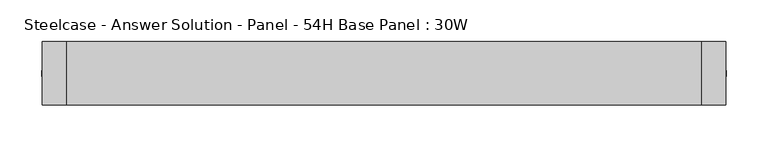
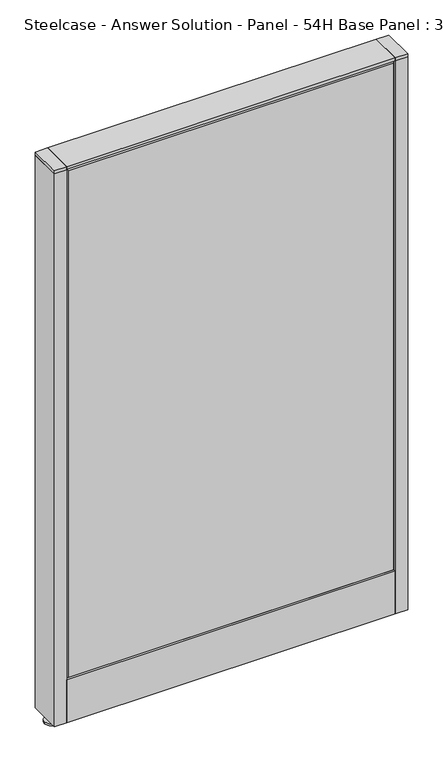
"""IFC4 building model written with IfcOpenShell, lengths in millimetres: furniture geometry, Steelcase - Answer Solution - Panel - 54H Base Panel : 30W."""

import ifcopenshell
import ifcopenshell.guid

model = None  # the IFC model being written
_history = None  # IfcOwnerHistory: only IFC2X3 demands one
_inside = {}  # id of a spatial element -> (the spatial element, [elements in it])
_under = {}  # id of a project, library or spatial element -> (it, [spatial elements below it])
_declared = {}  # id of a project -> (the project, [libraries it declares])
_typed = {}  # id of a type object -> (the type object, [elements of that type])
_made_of = {}  # id of a material, layer set ... -> (it, [elements and type objects made of it])


def new_model(schema):
    """Start an empty IFC model of exactly this schema.

    Asked for "IFC4X3", IfcOpenShell would pick the latest addendum, in which some entities
    have other attributes; the version numbers below select the first issue.
    IFC2X3 requires an IfcOwnerHistory on every rooted entity: one is made here for all.
    """
    global model, _history
    if schema == "IFC4X3":
        model = ifcopenshell.file(schema_version=(4, 3, 0, 0))
    else:
        model = ifcopenshell.file(schema=schema)
    _inside.clear()
    _under.clear()
    _declared.clear()
    _typed.clear()
    _made_of.clear()
    _history = None
    if model.schema == "IFC2X3":
        org = make("IfcOrganization", Name="unknown")
        user = make(
            "IfcPersonAndOrganization",
            ThePerson=make("IfcPerson", FamilyName="unknown"),
            TheOrganization=org,
        )
        app = make(
            "IfcApplication",
            ApplicationDeveloper=org,
            Version="unknown",
            ApplicationFullName="unknown",
            ApplicationIdentifier="unknown",
        )
        _history = make(
            "IfcOwnerHistory",
            OwningUser=user,
            OwningApplication=app,
            ChangeAction="ADDED",
            CreationDate=0,
        )
    return model


def make(cls, **values):
    """One entity of the class cls with the attributes given. An attribute that is None is left unset."""
    return model.create_entity(
        cls, **{name: value for name, value in values.items() if value is not None}
    )


def rooted(cls, **values):
    """An entity with a GlobalId (a new one), such as an element, a storey or a relation."""
    return make(cls, GlobalId=ifcopenshell.guid.new(), OwnerHistory=_history, **values)


def si_unit(unit_type, name, prefix=None):
    """IfcSIUnit, for example si_unit("LENGTHUNIT", "METRE", prefix="MILLI")."""
    return make("IfcSIUnit", UnitType=unit_type, Prefix=prefix, Name=name)


def assignment(units):
    """IfcUnitAssignment: the units of a project."""
    return None if units is None else make("IfcUnitAssignment", Units=units)


def point(xyz):
    """IfcCartesianPoint."""
    return None if xyz is None else make("IfcCartesianPoint", Coordinates=xyz)


def direction(xyz):
    """IfcDirection."""
    return None if xyz is None else make("IfcDirection", DirectionRatios=xyz)


def frame(location, z_axis=None, x_axis=None):
    """IfcAxis2Placement3D, a coordinate frame: its origin and axes. An axis left out is left unset."""
    return make(
        "IfcAxis2Placement3D",
        Location=point(location),
        Axis=direction(z_axis),
        RefDirection=direction(x_axis),
    )


def frame_2d(location, x_axis=None):
    """IfcAxis2Placement2D, a coordinate frame in the plane: its origin and x axis."""
    return make(
        "IfcAxis2Placement2D", Location=point(location), RefDirection=direction(x_axis)
    )


def origin():
    """The frame at (0, 0, 0) with its axes left unset."""
    return frame((0.0, 0.0, 0.0))


def place(relative_to, where):
    """IfcLocalPlacement: puts the frame where relative to a parent placement (None: the world)."""
    return make(
        "IfcLocalPlacement", PlacementRelTo=relative_to, RelativePlacement=where
    )


def context(
    kind, dimensions, precision=None, world=None, true_north=None, identifier=None
):
    """IfcGeometricRepresentationContext, for example the 3D "Model" context."""
    return make(
        "IfcGeometricRepresentationContext",
        ContextIdentifier=identifier,
        ContextType=kind,
        CoordinateSpaceDimension=dimensions,
        Precision=precision,
        WorldCoordinateSystem=world,
        TrueNorth=true_north,
    )


def project(units=None, contexts=None):
    """IfcProject with its units and contexts."""
    return rooted(
        "IfcProject",
        Name="project",
        RepresentationContexts=contexts,
        UnitsInContext=assignment(units),
    )


def spatial(cls, under=None, at=None, **own):
    """A site, building, storey or space (cls), placed at a placement, below another one or the project."""
    s = rooted(cls, ObjectPlacement=at, **own)
    if under is not None:
        _under.setdefault(under.id(), (under, []))[1].append(s)
    return s


def polyline(points):
    """IfcPolyline through the points."""
    return make("IfcPolyline", Points=[point(p) for p in points])


def circle_curve(where, radius):
    """IfcCircle in the frame where."""
    return make("IfcCircle", Position=where, Radius=radius)


def trimmed(basis, trim1, trim2, sense, master):
    """IfcTrimmedCurve: the piece of a basis curve between two trims."""
    return make(
        "IfcTrimmedCurve",
        BasisCurve=basis,
        Trim1=trim1,
        Trim2=trim2,
        SenseAgreement=sense,
        MasterRepresentation=master,
    )


def segment(curve, same_sense, transition):
    """IfcCompositeCurveSegment."""
    return make(
        "IfcCompositeCurveSegment",
        Transition=transition,
        SameSense=same_sense,
        ParentCurve=curve,
    )


def composite_curve(segments, self_intersect=None):
    """IfcCompositeCurve: segments joined end to end."""
    return make("IfcCompositeCurve", Segments=segments, SelfIntersect=self_intersect)


def outline(outer, holes=None, kind="AREA"):
    """IfcArbitraryClosedProfileDef: a profile drawn as a closed curve; with holes, ...WithVoids."""
    if holes is None:
        return make("IfcArbitraryClosedProfileDef", ProfileType=kind, OuterCurve=outer)
    return make(
        "IfcArbitraryProfileDefWithVoids",
        ProfileType=kind,
        OuterCurve=outer,
        InnerCurves=holes,
    )


def extrude(swept, where, along, depth):
    """IfcExtrudedAreaSolid: the profile swept, set in the frame where, extruded along a direction by depth."""
    return make(
        "IfcExtrudedAreaSolid",
        SweptArea=swept,
        Position=where,
        ExtrudedDirection=direction(along),
        Depth=depth,
    )


def faces_of(points, faces, orient=None, outer=None):
    """IfcFace entities. A face is a list of loops; a loop is a list of indices into points, from 0.

    orient and outer hold one flag for each loop. By default every Orientation is true, the
    first loop of a face is its IfcFaceOuterBound and the others are IfcFaceBound.
    """
    made = []
    for i, loops in enumerate(faces):
        bounds = []
        for j, loop in enumerate(loops):
            is_outer = j == 0 if outer is None else outer[i][j]
            bounds.append(
                make(
                    "IfcFaceOuterBound" if is_outer else "IfcFaceBound",
                    Bound=make("IfcPolyLoop", Polygon=[points[k] for k in loop]),
                    Orientation=True if orient is None else orient[i][j],
                )
            )
        made.append(make("IfcFace", Bounds=bounds))
    return made


def faceted_brep(points, faces, orient=None, outer=None, voids=None):
    """IfcFacetedBrep: a solid bounded by flat faces; with voids (closed shells), ...WithVoids."""
    shared = [point(p) for p in points]
    hull = make("IfcClosedShell", CfsFaces=faces_of(shared, faces, orient, outer))
    if voids is None:
        return make("IfcFacetedBrep", Outer=hull)
    return make(
        "IfcFacetedBrepWithVoids",
        Outer=hull,
        Voids=[
            make(cls, CfsFaces=faces_of(shared, fs, o, b)) for cls, fs, o, b in voids
        ],
    )


def shape(context_of_items, identifier, shape_type, items):
    """IfcShapeRepresentation: the items that make up one representation, for example the "Body"."""
    return make(
        "IfcShapeRepresentation",
        ContextOfItems=context_of_items,
        RepresentationIdentifier=identifier,
        RepresentationType=shape_type,
        Items=items,
    )


def source(mapping_origin, context_of_items, identifier, shape_type, items):
    """IfcRepresentationMap: a shape defined once, which mapped items show again and again."""
    return make(
        "IfcRepresentationMap",
        MappingOrigin=mapping_origin,
        MappedRepresentation=shape(context_of_items, identifier, shape_type, items),
    )


def transform(
    local_origin,
    x_axis=None,
    y_axis=None,
    z_axis=None,
    scale=None,
    scale2=None,
    scale3=None,
    uniform=True,
):
    """IfcCartesianTransformationOperator3D, or its non-uniform kind. x_axis, y_axis, z_axis: its Axis1, 2, 3."""
    if uniform:
        return make(
            "IfcCartesianTransformationOperator3D",
            Axis1=direction(x_axis),
            Axis2=direction(y_axis),
            LocalOrigin=point(local_origin),
            Scale=scale,
            Axis3=direction(z_axis),
        )
    return make(
        "IfcCartesianTransformationOperator3DnonUniform",
        Axis1=direction(x_axis),
        Axis2=direction(y_axis),
        LocalOrigin=point(local_origin),
        Scale=scale,
        Axis3=direction(z_axis),
        Scale2=scale2,
        Scale3=scale3,
    )


def mapped(mapping_source, mapping_target):
    """IfcMappedItem: shows the shape of a source again, moved by a transform."""
    return make(
        "IfcMappedItem", MappingSource=mapping_source, MappingTarget=mapping_target
    )


def made_of(thing, what):
    """Note that an element or type object is made of a material, layer set ...; save() writes the relation."""
    if what is not None:
        _made_of.setdefault(what.id(), (what, []))[1].append(thing)
    return thing


def element(
    cls,
    number,
    at=None,
    inside=None,
    cuts=None,
    type_object=None,
    material=None,
    context=None,
    identifier="Body",
    shape_type=None,
    held_by="IfcProductDefinitionShape",
    body=None,
    shapes=None,
    **own,
):
    """One element of the class cls, such as IfcWall. Its Tag is "e" and its number.

    at: its placement. inside: the storey or other place that contains it. cuts: it is an
    opening in that element (IfcRelVoidsElement). A single representation is given by context,
    identifier, shape_type and body (its items); several are given by shapes. held_by: the class
    of the entity that holds the representations. save() writes the other relations.
    """
    e = rooted(cls, Tag="e%d" % number, ObjectPlacement=at, **own)
    if body is not None:
        shapes = [shape(context, identifier, shape_type, body)]
    if shapes is not None:
        e.Representation = make(held_by, Representations=shapes)
    if inside is not None:
        _inside.setdefault(inside.id(), (inside, []))[1].append(e)
    if cuts is not None:
        rooted(
            "IfcRelVoidsElement", RelatingBuildingElement=cuts, RelatedOpeningElement=e
        )
    if type_object is not None:
        _typed.setdefault(type_object.id(), (type_object, []))[1].append(e)
    return made_of(e, material)


def aggregate(whole, parts):
    """IfcRelAggregates: a whole, such as a stair, and the parts it consists of."""
    return rooted("IfcRelAggregates", RelatingObject=whole, RelatedObjects=parts)


def save(model, path):
    """Write the relations noted so far, then the file.

    IfcRelAggregates (storeys below a building ...), IfcRelContainedInSpatialStructure (elements
    in a storey), IfcRelDefinesByType, IfcRelAssociatesMaterial and IfcRelDeclares: one each for
    every whole, place, type object, material and project.
    """
    for whole, parts in _under.values():
        aggregate(whole, parts)
    for where, things in _inside.values():
        rooted(
            "IfcRelContainedInSpatialStructure",
            RelatedElements=things,
            RelatingStructure=where,
        )
    for kind, things in _typed.values():
        rooted("IfcRelDefinesByType", RelatedObjects=things, RelatingType=kind)
    for what, things in _made_of.values():
        rooted("IfcRelAssociatesMaterial", RelatedObjects=things, RelatingMaterial=what)
    for by, libraries in _declared.values():
        rooted("IfcRelDeclares", RelatingContext=by, RelatedDefinitions=libraries)
    model.write(path)


def steelcase_answer_solution_panel_54h_base_panel_30w_8b0876ea(model_context):
    return source(origin(), model_context, "Body", "SolidModel", [
        extrude(outline(composite_curve([segment(trimmed(circle_curve(frame_2d((395.224, 0.0320214)), 5.08), [point((400.304, 0.0320214))], [point((390.144, 0.0320214))], False, "CARTESIAN"), True, "CONTINUOUS"), segment(trimmed(circle_curve(frame_2d((395.224, 0.0320214)), 5.08), [point((390.144, 0.0320214))], [point((400.304, 0.0320214))], False, "CARTESIAN"), True, "CONTINUOUS")], self_intersect=False)), frame((0.0, 0.0, 5.0799671), z_axis=(0.0, 0.0, 1.0), x_axis=(1.0, 0.0, 0.0)), (0.0, 0.0, 1.0), 10.414),
        extrude(outline(composite_curve([segment(trimmed(circle_curve(frame_2d((395.224, 0.0320214)), 15.24), [point((410.464, 0.0320214))], [point((379.984, 0.0320214))], False, "CARTESIAN"), True, "CONTINUOUS"), segment(trimmed(circle_curve(frame_2d((395.224, 0.0320214)), 15.24), [point((379.984, 0.0320214))], [point((410.464, 0.0320214))], False, "CARTESIAN"), True, "CONTINUOUS")], self_intersect=False)), frame((0.0, 0.0, -3.29e-05), z_axis=(0.0, 0.0, 1.0), x_axis=(1.0, 0.0, 0.0)), (0.0, 0.0, 1.0), 5.08),
        extrude(outline(polyline([(409.575, 38.1320408), (409.575, -38.0679592), (381.0, -38.0679592), (381.0, 38.1320408), (409.575, 38.1320408)])), frame((0.0, 0.0, 1370.6348), z_axis=(0.0, 0.0, 1.0), x_axis=(1.0, 0.0, 0.0)), (0.0, 0.0, 1.0), 7.3151671),
        extrude(outline(polyline([(409.575, 38.1320408), (409.575, -38.0679592), (381.0, -38.0679592), (381.0, 38.1320408), (409.575, 38.1320408)])), frame((0.0, 0.0, 15.4939671), z_axis=(0.0, 0.0, 1.0), x_axis=(1.0, 0.0, 0.0)), (0.0, 0.0, 1.0), 1355.1408329),
        extrude(outline(composite_curve([segment(trimmed(circle_curve(frame_2d((-395.224, 0.0320214)), 5.08), [point((-400.304, 0.0320214))], [point((-390.144, 0.0320214))], False, "CARTESIAN"), True, "CONTINUOUS"), segment(trimmed(circle_curve(frame_2d((-395.224, 0.0320214)), 5.08), [point((-390.144, 0.0320214))], [point((-400.304, 0.0320214))], False, "CARTESIAN"), True, "CONTINUOUS")], self_intersect=False)), frame((0.0, 0.0, 5.0799671), z_axis=(0.0, 0.0, 1.0), x_axis=(1.0, 0.0, 0.0)), (0.0, 0.0, 1.0), 10.414),
        extrude(outline(composite_curve([segment(trimmed(circle_curve(frame_2d((-395.224, 0.0320214)), 15.24), [point((-410.464, 0.0320214))], [point((-379.984, 0.0320214))], False, "CARTESIAN"), True, "CONTINUOUS"), segment(trimmed(circle_curve(frame_2d((-395.224, 0.0320214)), 15.24), [point((-379.984, 0.0320214))], [point((-410.464, 0.0320214))], False, "CARTESIAN"), True, "CONTINUOUS")], self_intersect=False)), frame((0.0, 0.0, -3.29e-05), z_axis=(0.0, 0.0, 1.0), x_axis=(1.0, 0.0, 0.0)), (0.0, 0.0, 1.0), 5.08),
        extrude(outline(polyline([(-409.575, 38.1320408), (-381.0, 38.1320408), (-381.0, -38.0679592), (-409.575, -38.0679592), (-409.575, 38.1320408)])), frame((0.0, 0.0, 1370.6348), z_axis=(0.0, 0.0, 1.0), x_axis=(1.0, 0.0, 0.0)), (0.0, 0.0, 1.0), 7.3151671),
        extrude(outline(polyline([(-409.575, 38.1320408), (-381.0, 38.1320408), (-381.0, -38.0679592), (-409.575, -38.0679592), (-409.575, 38.1320408)])), frame((0.0, 0.0, 15.4939671), z_axis=(0.0, 0.0, 1.0), x_axis=(1.0, 0.0, 0.0)), (0.0, 0.0, 1.0), 1355.1408329),
        faceted_brep([(-376.174, 38.1635011, 1366.774), (376.174, 38.1635011, 1366.774), (376.174, 38.1635011, 125.476), (-376.174, 38.1635011, 125.476), (-381.0, 33.3375011, 1371.6), (-381.0, 33.3375011, 120.65), (381.0, 33.3375011, 120.65), (381.0, 33.3375011, 1371.6)], [[[0, 1, 2, 3]], [[4, 5, 6, 7]], [[4, 7, 1, 0]], [[7, 6, 2, 1]], [[6, 5, 3, 2]], [[5, 4, 0, 3]]]),
        faceted_brep([(376.174, -38.1635011, 1366.774), (-376.174, -38.1635011, 1366.774), (-376.174, -38.1635011, 125.476), (376.174, -38.1635011, 125.476), (381.0, -33.3375011, 1371.6), (381.0, -33.3375011, 120.65), (-381.0, -33.3375011, 120.65), (-381.0, -33.3375011, 1371.6)], [[[0, 1, 2, 3]], [[4, 5, 6, 7]], [[4, 7, 1, 0]], [[7, 6, 2, 1]], [[6, 5, 3, 2]], [[5, 4, 0, 3]]]),
        extrude(outline(polyline([(381.0, 38.1000194), (381.0, -38.1000194), (-381.0, -38.1000194), (-381.0, 38.1000194), (381.0, 38.1000194)])), frame((0.0, 0.0, 1371.6), z_axis=(0.0, 0.0, 1.0), x_axis=(1.0, 0.0, 0.0)), (0.0, 0.0, 1.0), 6.35),
        extrude(outline(polyline([(25.4000011, 119.8575157), (25.4000011, 120.65), (38.1000194, 120.65), (38.1000194, 15.494), (37.3075215, 15.494), (37.3075215, 119.8575157), (25.4000011, 119.8575157)])), frame((-381.0, 0.0, 0.0), z_axis=(1.0, 0.0, 0.0), x_axis=(0.0, 1.0, 0.0)), (0.0, 0.0, 1.0), 762.0),
        extrude(outline(polyline([(-25.4000011, 119.8575157), (-37.3075215, 119.8575157), (-37.3075215, 15.494), (-38.1000194, 15.494), (-38.1000194, 120.65), (-25.4000011, 120.65), (-25.4000011, 119.8575157)])), frame((-381.0, 0.0, 0.0), z_axis=(1.0, 0.0, 0.0), x_axis=(0.0, 1.0, 0.0)), (0.0, 0.0, 1.0), 762.0),
    ])


if __name__ == "__main__":
    model = new_model("IFC4")
    model_context = context("Model", 3, world=origin())
    ifc_project = project(units=[si_unit("LENGTHUNIT", "METRE", prefix="MILLI")], contexts=[model_context])
    site = spatial("IfcSite", under=ifc_project)
    building = spatial("IfcBuilding", under=site)
    placement = place(None, origin())
    steelcase_answer_solution_panel_54h_base_panel_30w_shape = steelcase_answer_solution_panel_54h_base_panel_30w_8b0876ea(model_context)
    element("IfcFurniture", 1, ObjectType="Steelcase - Answer Solution - Panel - 54H Base Panel : 30W", at=placement, inside=building, context=model_context, shape_type="MappedRepresentation", body=[
        mapped(steelcase_answer_solution_panel_54h_base_panel_30w_shape, transform((0.0, 0.0, 0.0), x_axis=(1.0, 0.0, 0.0), y_axis=(0.0, 1.0, 0.0), z_axis=(0.0, 0.0, 1.0))),
    ])
    save(model, "model.ifc")
